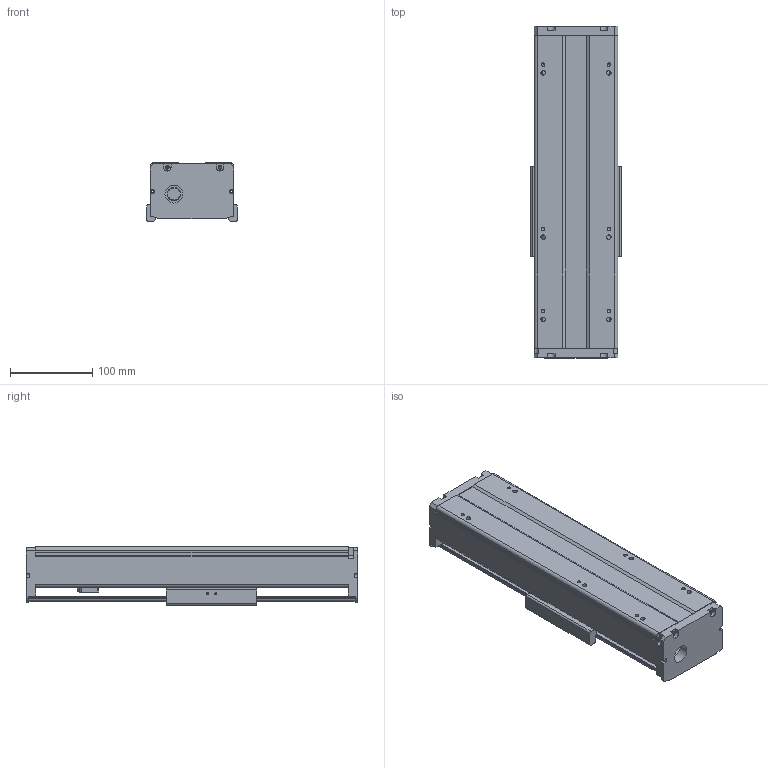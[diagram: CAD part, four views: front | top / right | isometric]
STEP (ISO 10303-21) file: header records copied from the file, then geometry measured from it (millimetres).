
FILE_DESCRIPTION(/* description */ (''),/* implementation_level */ '2;1');
FILE_NAME(/* name */ 'TKA100-150A1F0_asm1.stp',/* time_stamp */ '2017-02-20T14:58:38+08:00',/* author */ (''),/* organization */ (''),/* preprocessor_version */ 'ST-DEVELOPER v15',/* originating_system */ 'SIEMENS PLM Software NX 8.5',/* authorisation */ '');
FILE_SCHEMA (('AUTOMOTIVE_DESIGN { 1 0 10303 214 3 1 1 1 }'));
Length unit declared in the file: millimetre
Products named in the file (3): 200-02; 200-01; TKA100-150A1F0_asm1_stp
Assembly tree (2 placements, depth 2):
  TKA100-150A1F0_asm1_stp
    200-01
    200-02
Bounding box: 110 x 404 x 71 mm (x, y, z)
Volume: 1067783.8 mm3; surface area: 338740 mm2
Topology: 2 solids, 8 shells, 665 faces, 1779 edges, 1162 vertices
Faces by surface type: cylinder 255, plane 253, cone 104, torus 27, bspline 26
Full cylindrical faces by diameter (mm): 2.5 x6, 2.6 x8, 3.3 x8, 3.4 x8, 3.8 x4, 4.2 x15, 4.3 x4, 4.5 x4, 5 x1, 5.5 x14, 6.6 x4, 8 x5, 9 x4, 10 x6, 11 x4, 12 x6, 12.05 x2, 15.3 x1, 15.4 x1, 16 x1, 17 x2, 18 x1, 22 x1, 24 x1, 28 x5, 30 x1
Entity records: 25376 total; most frequent: CARTESIAN_POINT 9756, DIRECTION 3179, ORIENTED_EDGE 3016, EDGE_CURVE 1508, AXIS2_PLACEMENT_3D 1261, VERTEX_POINT 1095, EDGE_LOOP 946, ADVANCED_FACE 665
